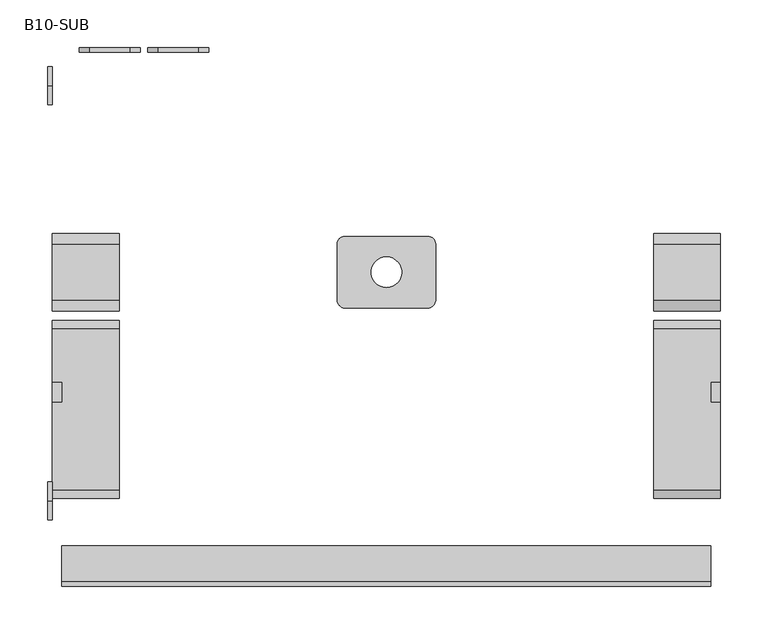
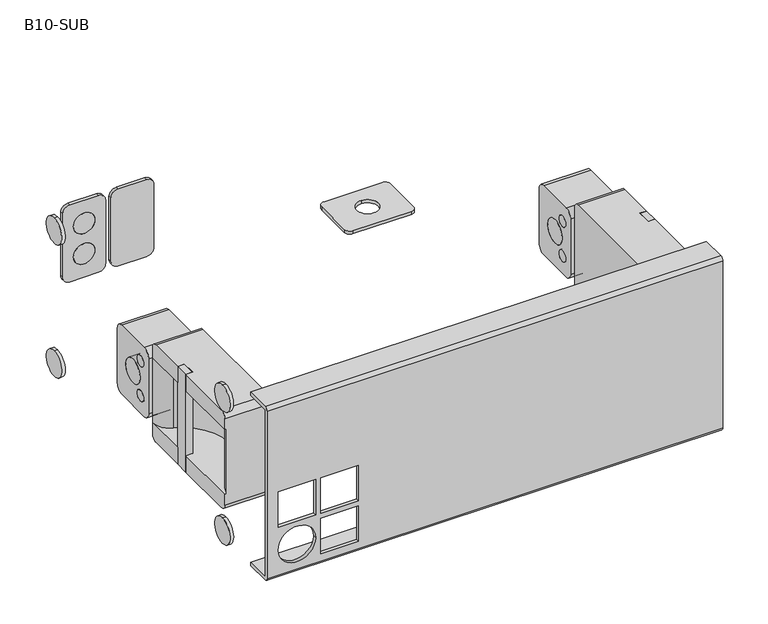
"""IFC4 building model written with IfcOpenShell, lengths in millimetres: proxy geometry, d&b B10-SUB : B10-SUB."""

from ifc_helpers import new_model, si_unit, point, frame, frame_2d, origin, place, context, project, spatial, polyline, circle_curve, trimmed, segment, composite_curve, outline, extrude, source, transform, mapped, element, save
from ifc_brep_helpers import plane_surface, cylinder_surface, revolved_surface, advanced_brep


def b10_sub_546336d0(model_context):
    return source(origin(), model_context, "Body", "SolidModel", [
        advanced_brep(
        [(2782.5, 31.2505973, 73.75), (2782.5, 31.2505973, 210.25), (2782.5, 40.2505973, 219.25), (2782.5, 209.2505973, 219.25), (2782.5, 218.2505973, 210.25), (2782.5, 218.2505973, 73.75), (2782.5, 209.2505973, 64.75), (2782.5, 40.2505973, 64.75), (2852.5, 218.2505973, 90.75), (2852.5, 153.5505973, 90.75), (2852.5, 153.5505973, 64.75), (2852.5, 209.2505973, 64.75), (2852.5, 218.2505973, 73.75), (2852.5, 31.2505973, 73.75), (2852.5, 40.2505973, 64.75), (2852.5, 132.1755973, 64.75), (2852.5, 132.1755973, 90.75), (2852.5, 31.2505973, 90.75), (2852.5, 31.2505973, 210.25), (2852.5, 31.2505973, 193.25), (2852.5, 132.1755973, 193.25), (2852.5, 132.1755973, 219.25), (2852.5, 40.2505973, 219.25), (2852.5, 218.2505973, 193.25), (2852.5, 218.2505973, 210.25), (2852.5, 209.2505973, 219.25), (2852.5, 153.5505973, 219.25), (2852.5, 153.5505973, 193.25), (2842.5, 153.5505973, 64.75), (2842.5, 132.1755973, 64.75), (2850.3277755, 31.2505973, 90.75), (2850.3277755, 31.2505973, 193.25), (2842.5, 132.1755973, 90.75), (2835.5638712, 194.3480463, 90.75), (2821.2971722, 71.2198126, 90.75), (2842.5, 153.5505973, 90.75), (2821.2971722, 71.2198126, 193.25), (2835.5638712, 194.3480463, 193.25), (2842.5, 153.5505973, 193.25), (2842.5, 132.1755973, 193.25), (2842.5, 132.1755973, 219.25), (2842.5, 153.5505973, 219.25)],
        [
            (0, 1),
            (1, 2, circle_curve(frame((2782.5, 40.2505973, 210.25), z_axis=(-1.0, 0.0, 0.0), x_axis=(0.0, 0.0, 1.0)), 9.0)),
            (2, 3),
            (3, 4, circle_curve(frame((2782.5, 209.2505973, 210.25), z_axis=(-1.0, 0.0, 0.0), x_axis=(0.0, 0.0, 1.0)), 9.0)),
            (4, 5),
            (5, 6, circle_curve(frame((2782.5, 209.2505973, 73.75), z_axis=(-1.0, 0.0, 0.0), x_axis=(0.0, 0.0, -1.0)), 9.0)),
            (6, 7),
            (7, 0, circle_curve(frame((2782.5, 40.2505973, 73.75), z_axis=(-1.0, 0.0, 0.0), x_axis=(0.0, 0.0, -1.0)), 9.0)),
            (8, 9),
            (9, 10),
            (10, 11),
            (11, 12, circle_curve(frame((2852.5, 209.2505973, 73.75), z_axis=(1.0, 0.0, 0.0), x_axis=(0.0, 0.0, -1.0)), 9.0)),
            (12, 8),
            (13, 14, circle_curve(frame((2852.5, 40.2505973, 73.75), z_axis=(1.0, 0.0, 0.0), x_axis=(0.0, 0.0, -1.0)), 9.0)),
            (14, 15),
            (15, 16),
            (16, 17),
            (17, 13),
            (18, 19),
            (19, 20),
            (20, 21),
            (21, 22),
            (22, 18, circle_curve(frame((2852.5, 40.2505973, 210.25), z_axis=(1.0, 0.0, 0.0), x_axis=(0.0, 0.0, 1.0)), 9.0)),
            (23, 24),
            (24, 25, circle_curve(frame((2852.5, 209.2505973, 210.25), z_axis=(1.0, 0.0, 0.0), x_axis=(0.0, 0.0, 1.0)), 9.0)),
            (25, 26),
            (26, 27),
            (27, 23),
            (7, 14),
            (13, 0),
            (10, 28),
            (28, 29),
            (29, 15),
            (6, 11),
            (5, 12),
            (4, 24),
            (23, 8),
            (17, 30),
            (30, 31),
            (31, 19),
            (18, 1),
            (29, 32),
            (32, 16),
            (8, 33, circle_curve(frame((2827.1646824, 218.2505973, 90.75), z_axis=(0.0, 0.0, -1.0), x_axis=(-1.0, 0.0, 0.0)), 25.3353176)),
            (33, 34, circle_curve(frame((2858.418024, 129.3093188, 90.75), z_axis=(0.0, 0.0, 1.0), x_axis=(-1.0, 0.0, 0.0)), 68.9372786)),
            (34, 30, circle_curve(frame((2784.8922182, 14.2505973, 90.75), z_axis=(0.0, 0.0, -1.0), x_axis=(-1.0, 0.0, 0.0)), 67.6077818)),
            (32, 35),
            (35, 9),
            (35, 28),
            (31, 36, circle_curve(frame((2784.8922182, 14.2505973, 193.25), z_axis=(0.0, 0.0, 1.0), x_axis=(-1.0, 0.0, 0.0)), 67.6077818)),
            (36, 37, circle_curve(frame((2858.418024, 129.3093188, 193.25), z_axis=(0.0, 0.0, -1.0), x_axis=(-1.0, 0.0, 0.0)), 68.9372786)),
            (37, 23, circle_curve(frame((2827.1646824, 218.2505973, 193.25), z_axis=(0.0, 0.0, 1.0), x_axis=(-1.0, 0.0, 0.0)), 25.3353176)),
            (27, 38),
            (38, 39),
            (39, 20),
            (39, 40),
            (40, 21),
            (40, 41),
            (41, 26),
            (25, 3),
            (2, 22),
            (41, 38),
            (34, 36),
            (37, 33),
        ],
        [
            plane_surface(frame((2782.5, 40.2505973, 64.75), z_axis=(-1.0, 0.0, 0.0), x_axis=(0.0, 1.0, 0.0))),
            plane_surface(frame((2852.5, 40.2505973, 64.75), z_axis=(1.0, 0.0, 0.0), x_axis=(0.0, -1.0, 0.0))),
            cylinder_surface(frame((2852.5, 40.2505973, 73.75), z_axis=(-1.0, 0.0, 0.0), x_axis=(0.0, 0.0, -1.0)), 9.0),
            plane_surface(frame((2782.5, 40.2505973, 64.75), z_axis=(0.0, 0.0, -1.0), x_axis=(1.0, 0.0, 0.0))),
            cylinder_surface(frame((2852.5, 209.2505973, 73.75), z_axis=(-1.0, 0.0, 0.0), x_axis=(0.0, 0.0, -1.0)), 9.0),
            plane_surface(frame((2782.5, 218.2505973, 73.75), z_axis=(0.0, 1.0, 0.0), x_axis=(1.0, 0.0, 0.0))),
            plane_surface(frame((2782.5, 31.2505973, 90.75), z_axis=(0.0, -1.0, 0.0), x_axis=(1.0, 0.0, 0.0))),
            plane_surface(frame((2782.5, 132.1755973, 64.75), z_axis=(0.0, 1.0, 0.0), x_axis=(1.0, 0.0, 0.0))),
            plane_surface(frame((2782.5, 132.1755973, 90.75), z_axis=(0.0, 0.0, 1.0), x_axis=(1.0, 0.0, 0.0))),
            plane_surface(frame((2782.5, 153.5505973, 90.75), z_axis=(0.0, -1.0, 0.0), x_axis=(1.0, 0.0, 0.0))),
            plane_surface(frame((2782.5, 31.2505973, 193.25), z_axis=(0.0, 0.0, -1.0), x_axis=(1.0, 0.0, 0.0))),
            plane_surface(frame((2782.5, 132.1755973, 193.25), z_axis=(0.0, 1.0, 0.0), x_axis=(1.0, 0.0, 0.0))),
            plane_surface(frame((2782.5, 132.1755973, 219.25), z_axis=(0.0, 0.0, 1.0), x_axis=(1.0, 0.0, 0.0))),
            cylinder_surface(frame((2852.5, 40.2505973, 210.25), z_axis=(-1.0, 0.0, 0.0), x_axis=(0.0, 0.0, 1.0)), 9.0),
            cylinder_surface(frame((2852.5, 209.2505973, 210.25), z_axis=(-1.0, 0.0, 0.0), x_axis=(0.0, 0.0, 1.0)), 9.0),
            plane_surface(frame((2782.5, 153.5505973, 219.25), z_axis=(0.0, -1.0, 0.0), x_axis=(1.0, 0.0, 0.0))),
            plane_surface(frame((2842.5, 153.5505973, 81.9999786), z_axis=(1.0, 0.0, 0.0), x_axis=(0.0, 0.0, -1.0))),
            cylinder_surface(frame((2784.8922182, 14.2505973, 90.75), z_axis=(0.0, 0.0, 1.0), x_axis=(-1.0, 0.0, 0.0)), 67.6077818),
            cylinder_surface(frame((2827.1646824, 218.2505973, 90.75), z_axis=(0.0, 0.0, 1.0), x_axis=(-1.0, 0.0, 0.0)), 25.3353176),
            revolved_surface(polyline([(2789.4807454, 129.3093188, 90.75), (2789.4807454, 129.3093188, 193.25)]), (2858.418024, 129.3093188, 90.75), (0.0, 0.0, -1.0)),
        ],
        [
            (0, [[1, 2, 3, 4, 5, 6, 7, 8]]),
            (1, [[9, 10, 11, 12, 13]]),
            (1, [[14, 15, 16, 17, 18]]),
            (1, [[19, 20, 21, 22, 23]]),
            (1, [[24, 25, 26, 27, 28]]),
            (2, [[29, -14, 30, -8]]),
            (3, [[31, 32, 33, -15, -29, -7, 34, -11]]),
            (4, [[35, -12, -34, -6]]),
            (5, [[36, -24, 37, -13, -35, -5]]),
            (6, [[-30, -18, 38, 39, 40, -19, 41, -1]]),
            (7, [[-33, 42, 43, -16]]),
            (8, [[44, 45, 46, -38, -17, -43, 47, 48, -9]]),
            (9, [[-48, 49, -31, -10]]),
            (10, [[-40, 50, 51, 52, -28, 53, 54, 55, -20]]),
            (11, [[-55, 56, 57, -21]]),
            (12, [[-57, 58, 59, -26, 60, -3, 61, -22]]),
            (13, [[-41, -23, -61, -2]]),
            (14, [[-60, -25, -36, -4]]),
            (15, [[-59, 62, -53, -27]]),
            (16, [[-49, -47, -42, -32]]),
            (16, [[-62, -58, -56, -54]]),
            (17, [[-50, -39, -46, 63]]),
            (18, [[-52, 64, -44, -37]]),
            (19, [[-45, -64, -51, -63]]),
        ],
    ),
        extrude(outline(polyline([(2842.5, 153.5505973), (2852.5, 153.5505973), (2852.5, 132.1755973), (2842.5, 132.1755973), (2842.5, 153.5505973)])), frame((0.0, 0.0, 64.75), z_axis=(0.0, 0.0, 1.0), x_axis=(1.0, 0.0, 0.0)), (0.0, 0.0, 1.0), 154.5),
        advanced_brep(
        [(2222.5, 31.2505973, 73.75), (2222.5, 40.2505973, 64.75), (2222.5, 209.2505973, 64.75), (2222.5, 218.2505973, 73.75), (2222.5, 218.2505973, 210.25), (2222.5, 209.2505973, 219.25), (2222.5, 40.2505973, 219.25), (2222.5, 31.2505973, 210.25), (2152.5, 218.2505973, 90.75), (2152.5, 218.2505973, 73.75), (2152.5, 209.2505973, 64.75), (2152.5, 153.5505973, 64.75), (2152.5, 153.5505973, 90.75), (2152.5, 31.2505973, 73.75), (2152.5, 31.2505973, 90.75), (2152.5, 132.1755973, 90.75), (2152.5, 132.1755973, 64.75), (2152.5, 40.2505973, 64.75), (2152.5, 31.2505973, 210.25), (2152.5, 40.2505973, 219.25), (2152.5, 132.1755973, 219.25), (2152.5, 132.1755973, 193.25), (2152.5, 31.2505973, 193.25), (2152.5, 218.2505973, 193.25), (2152.5, 153.5505973, 193.25), (2152.5, 153.5505973, 219.25), (2152.5, 209.2505973, 219.25), (2152.5, 218.2505973, 210.25), (2162.5, 132.1755973, 64.75), (2162.5, 153.5505973, 64.75), (2154.6722245, 31.2505973, 193.25), (2154.6722245, 31.2505973, 90.75), (2162.5, 132.1755973, 90.75), (2162.5, 153.5505973, 90.75), (2183.7028278, 71.2198126, 90.75), (2169.4361288, 194.3480463, 90.75), (2162.5, 132.1755973, 193.25), (2162.5, 153.5505973, 193.25), (2169.4361288, 194.3480463, 193.25), (2183.7028278, 71.2198126, 193.25), (2162.5, 132.1755973, 219.25), (2162.5, 153.5505973, 219.25)],
        [
            (0, 1, circle_curve(frame((2222.5, 40.2505973, 73.75), z_axis=(1.0, 0.0, 0.0), x_axis=(0.0, 0.0, -1.0)), 9.0)),
            (1, 2),
            (2, 3, circle_curve(frame((2222.5, 209.2505973, 73.75), z_axis=(1.0, 0.0, 0.0), x_axis=(0.0, 0.0, -1.0)), 9.0)),
            (3, 4),
            (4, 5, circle_curve(frame((2222.5, 209.2505973, 210.25), z_axis=(1.0, 0.0, 0.0), x_axis=(0.0, 0.0, 1.0)), 9.0)),
            (5, 6),
            (6, 7, circle_curve(frame((2222.5, 40.2505973, 210.25), z_axis=(1.0, 0.0, 0.0), x_axis=(0.0, 0.0, 1.0)), 9.0)),
            (7, 0),
            (8, 9),
            (9, 10, circle_curve(frame((2152.5, 209.2505973, 73.75), z_axis=(-1.0, 0.0, 0.0), x_axis=(0.0, 0.0, -1.0)), 9.0)),
            (10, 11),
            (11, 12),
            (12, 8),
            (13, 14),
            (14, 15),
            (15, 16),
            (16, 17),
            (17, 13, circle_curve(frame((2152.5, 40.2505973, 73.75), z_axis=(-1.0, 0.0, 0.0), x_axis=(0.0, 0.0, -1.0)), 9.0)),
            (18, 19, circle_curve(frame((2152.5, 40.2505973, 210.25), z_axis=(-1.0, 0.0, 0.0), x_axis=(0.0, 0.0, 1.0)), 9.0)),
            (19, 20),
            (20, 21),
            (21, 22),
            (22, 18),
            (23, 24),
            (24, 25),
            (25, 26),
            (26, 27, circle_curve(frame((2152.5, 209.2505973, 210.25), z_axis=(-1.0, 0.0, 0.0), x_axis=(0.0, 0.0, 1.0)), 9.0)),
            (27, 23),
            (0, 13),
            (17, 1),
            (10, 2),
            (16, 28),
            (28, 29),
            (29, 11),
            (9, 3),
            (8, 23),
            (27, 4),
            (7, 18),
            (22, 30),
            (30, 31),
            (31, 14),
            (15, 32),
            (32, 28),
            (12, 33),
            (33, 32),
            (31, 34, circle_curve(frame((2220.1077818, 14.2505973, 90.75), z_axis=(0.0, 0.0, -1.0), x_axis=(1.0, 0.0, 0.0)), 67.6077818)),
            (34, 35, circle_curve(frame((2146.581976, 129.3093188, 90.75), z_axis=(0.0, 0.0, 1.0), x_axis=(1.0, 0.0, 0.0)), 68.9372786)),
            (35, 8, circle_curve(frame((2177.8353176, 218.2505973, 90.75), z_axis=(0.0, 0.0, -1.0), x_axis=(1.0, 0.0, 0.0)), 25.3353176)),
            (29, 33),
            (21, 36),
            (36, 37),
            (37, 24),
            (23, 38, circle_curve(frame((2177.8353176, 218.2505973, 193.25), z_axis=(0.0, 0.0, 1.0), x_axis=(1.0, 0.0, 0.0)), 25.3353176)),
            (38, 39, circle_curve(frame((2146.581976, 129.3093188, 193.25), z_axis=(0.0, 0.0, -1.0), x_axis=(1.0, 0.0, 0.0)), 68.9372786)),
            (39, 30, circle_curve(frame((2220.1077818, 14.2505973, 193.25), z_axis=(0.0, 0.0, 1.0), x_axis=(1.0, 0.0, 0.0)), 67.6077818)),
            (20, 40),
            (40, 36),
            (19, 6),
            (5, 26),
            (25, 41),
            (41, 40),
            (37, 41),
            (39, 34),
            (35, 38),
        ],
        [
            plane_surface(frame((2222.5, 40.2505973, 64.75), z_axis=(1.0, 0.0, 0.0), x_axis=(0.0, 1.0, 0.0))),
            plane_surface(frame((2152.5, 40.2505973, 64.75), z_axis=(-1.0, 0.0, 0.0), x_axis=(0.0, -1.0, 0.0))),
            cylinder_surface(frame((2152.5, 40.2505973, 73.75), z_axis=(1.0, 0.0, 0.0), x_axis=(0.0, 0.0, -1.0)), 9.0),
            plane_surface(frame((2222.5, 40.2505973, 64.75), z_axis=(0.0, 0.0, -1.0), x_axis=(-1.0, 0.0, 0.0))),
            cylinder_surface(frame((2152.5, 209.2505973, 73.75), z_axis=(1.0, 0.0, 0.0), x_axis=(0.0, 0.0, -1.0)), 9.0),
            plane_surface(frame((2222.5, 218.2505973, 73.75), z_axis=(0.0, 1.0, 0.0), x_axis=(-1.0, 0.0, 0.0))),
            plane_surface(frame((2222.5, 31.2505973, 90.75), z_axis=(0.0, -1.0, 0.0), x_axis=(-1.0, 0.0, 0.0))),
            plane_surface(frame((2222.5, 132.1755973, 64.75), z_axis=(0.0, 1.0, 0.0), x_axis=(-1.0, 0.0, 0.0))),
            plane_surface(frame((2222.5, 132.1755973, 90.75), z_axis=(0.0, 0.0, 1.0), x_axis=(-1.0, 0.0, 0.0))),
            plane_surface(frame((2222.5, 153.5505973, 90.75), z_axis=(0.0, -1.0, 0.0), x_axis=(-1.0, 0.0, 0.0))),
            plane_surface(frame((2222.5, 31.2505973, 193.25), z_axis=(0.0, 0.0, -1.0), x_axis=(-1.0, 0.0, 0.0))),
            plane_surface(frame((2222.5, 132.1755973, 193.25), z_axis=(0.0, 1.0, 0.0), x_axis=(-1.0, 0.0, 0.0))),
            plane_surface(frame((2222.5, 132.1755973, 219.25), z_axis=(0.0, 0.0, 1.0), x_axis=(-1.0, 0.0, 0.0))),
            cylinder_surface(frame((2152.5, 40.2505973, 210.25), z_axis=(1.0, 0.0, 0.0), x_axis=(0.0, 0.0, 1.0)), 9.0),
            cylinder_surface(frame((2152.5, 209.2505973, 210.25), z_axis=(1.0, 0.0, 0.0), x_axis=(0.0, 0.0, 1.0)), 9.0),
            plane_surface(frame((2222.5, 153.5505973, 219.25), z_axis=(0.0, -1.0, 0.0), x_axis=(-1.0, 0.0, 0.0))),
            plane_surface(frame((2162.5, 153.5505973, 81.9999786), z_axis=(-1.0, 0.0, 0.0), x_axis=(0.0, 0.0, -1.0))),
            cylinder_surface(frame((2220.1077818, 14.2505973, 90.75), z_axis=(0.0, 0.0, 1.0), x_axis=(1.0, 0.0, 0.0)), 67.6077818),
            cylinder_surface(frame((2177.8353176, 218.2505973, 90.75), z_axis=(0.0, 0.0, 1.0), x_axis=(1.0, 0.0, 0.0)), 25.3353176),
            revolved_surface(polyline([(2215.5192546, 129.3093188, 90.75), (2215.5192546, 129.3093188, 193.25)]), (2146.581976, 129.3093188, 90.75), (0.0, 0.0, -1.0)),
        ],
        [
            (0, [[1, 2, 3, 4, 5, 6, 7, 8]]),
            (1, [[9, 10, 11, 12, 13]]),
            (1, [[14, 15, 16, 17, 18]]),
            (1, [[19, 20, 21, 22, 23]]),
            (1, [[24, 25, 26, 27, 28]]),
            (2, [[-1, 29, -18, 30]]),
            (3, [[-11, 31, -2, -30, -17, 32, 33, 34]]),
            (4, [[-3, -31, -10, 35]]),
            (5, [[-4, -35, -9, 36, -28, 37]]),
            (6, [[-8, 38, -23, 39, 40, 41, -14, -29]]),
            (7, [[-16, 42, 43, -32]]),
            (8, [[-13, 44, 45, -42, -15, -41, 46, 47, 48]]),
            (9, [[-12, -34, 49, -44]]),
            (10, [[-22, 50, 51, 52, -24, 53, 54, 55, -39]]),
            (11, [[-21, 56, 57, -50]]),
            (12, [[-20, 58, -6, 59, -26, 60, 61, -56]]),
            (13, [[-7, -58, -19, -38]]),
            (14, [[-5, -37, -27, -59]]),
            (15, [[-25, -52, 62, -60]]),
            (16, [[-33, -43, -45, -49]]),
            (16, [[-51, -57, -61, -62]]),
            (17, [[63, -46, -40, -55]]),
            (18, [[-36, -48, 64, -53]]),
            (19, [[-63, -54, -64, -47]]),
        ],
    ),
        extrude(outline(polyline([(2162.5, 153.5505973), (2162.5, 132.1755973), (2152.5, 132.1755973), (2152.5, 153.5505973), (2162.5, 153.5505973)])), frame((0.0, 0.0, 64.75), z_axis=(0.0, 0.0, 1.0), x_axis=(1.0, 0.0, 0.0)), (0.0, 0.0, 1.0), 154.5),
        extrude(outline(composite_curve([segment(trimmed(circle_curve(frame_2d((2546.0, 298.2505973)), 8.0), [point((2546.0, 306.2505973))], [point((2554.0, 298.2505973))], False, "CARTESIAN"), True, "CONTINUOUS"), segment(polyline([(2554.0, 298.2505973), (2554.0, 239.2505973)]), True, "CONTINUOUS"), segment(trimmed(circle_curve(frame_2d((2546.0, 239.2505973)), 8.0), [point((2554.0, 239.2505973))], [point((2546.0, 231.2505973))], False, "CARTESIAN"), True, "CONTINUOUS"), segment(polyline([(2546.0, 231.2505973), (2459.0, 231.2505973)]), True, "CONTINUOUS"), segment(trimmed(circle_curve(frame_2d((2459.0, 239.2505973)), 8.0), [point((2459.0, 231.2505973))], [point((2451.0, 239.2505973))], False, "CARTESIAN"), True, "CONTINUOUS"), segment(polyline([(2451.0, 239.2505973), (2451.0, 298.2505973)]), True, "CONTINUOUS"), segment(trimmed(circle_curve(frame_2d((2459.0, 298.2505973)), 8.0), [point((2451.0, 298.2505973))], [point((2459.0, 306.2505973))], False, "CARTESIAN"), True, "CONTINUOUS"), segment(polyline([(2459.0, 306.2505973), (2546.0, 306.2505973)]), True, "CONTINUOUS")], self_intersect=False), holes=[composite_curve([segment(trimmed(circle_curve(frame_2d((2502.5, 268.7505973)), 16.0), [point((2502.5, 252.7505973))], [point((2502.5, 284.7505973))], True, "CARTESIAN"), True, "CONTINUOUS"), segment(trimmed(circle_curve(frame_2d((2502.5, 268.7505973)), 16.0), [point((2502.5, 284.7505973))], [point((2502.5, 252.7505973))], True, "CARTESIAN"), True, "CONTINUOUS")], self_intersect=False)]), frame((0.0, 0.0, 274.0), z_axis=(0.0, 0.0, 1.0), x_axis=(1.0, 0.0, 0.0)), (0.0, 0.0, 1.0), 5.0),
        extrude(outline(composite_curve([segment(trimmed(circle_curve(frame_2d((214.5, 2212.5)), 16.0), [point((214.5, 2228.5))], [point((214.5, 2196.5))], False, "CARTESIAN"), True, "CONTINUOUS"), segment(trimmed(circle_curve(frame_2d((214.5, 2212.5)), 16.0), [point((214.5, 2196.5))], [point((214.5, 2228.5))], False, "CARTESIAN"), True, "CONTINUOUS")], self_intersect=False)), frame((0.0, 499.2505973, 0.0), z_axis=(0.0, 1.0, 0.0), x_axis=(0.0, 0.0, 1.0)), (0.0, 0.0, 1.0), 5.0),
        extrude(outline(composite_curve([segment(trimmed(circle_curve(frame_2d((166.5, 2212.5)), 16.0), [point((166.5, 2228.5))], [point((166.5, 2196.5))], False, "CARTESIAN"), True, "CONTINUOUS"), segment(trimmed(circle_curve(frame_2d((166.5, 2212.5)), 16.0), [point((166.5, 2196.5))], [point((166.5, 2228.5))], False, "CARTESIAN"), True, "CONTINUOUS")], self_intersect=False)), frame((0.0, 499.2505973, 0.0), z_axis=(0.0, 1.0, 0.0), x_axis=(0.0, 0.0, 1.0)), (0.0, 0.0, 1.0), 5.0),
        extrude(outline(composite_curve([segment(polyline([(250.5, 2234.0), (250.5, 2191.0)]), True, "CONTINUOUS"), segment(trimmed(circle_curve(frame_2d((240.0, 2191.0)), 10.5), [point((250.5, 2191.0))], [point((240.0, 2180.5))], False, "CARTESIAN"), True, "CONTINUOUS"), segment(polyline([(240.0, 2180.5), (140.0, 2180.5)]), True, "CONTINUOUS"), segment(trimmed(circle_curve(frame_2d((140.0, 2191.0)), 10.5), [point((140.0, 2180.5))], [point((129.5, 2191.0))], False, "CARTESIAN"), True, "CONTINUOUS"), segment(polyline([(129.5, 2191.0), (129.5, 2234.0)]), True, "CONTINUOUS"), segment(trimmed(circle_curve(frame_2d((140.0, 2234.0)), 10.5), [point((129.5, 2234.0))], [point((140.0, 2244.5))], False, "CARTESIAN"), True, "CONTINUOUS"), segment(polyline([(140.0, 2244.5), (240.0, 2244.5)]), True, "CONTINUOUS"), segment(trimmed(circle_curve(frame_2d((240.0, 2234.0)), 10.5), [point((240.0, 2244.5))], [point((250.5, 2234.0))], False, "CARTESIAN"), True, "CONTINUOUS")], self_intersect=False), holes=[composite_curve([segment(trimmed(circle_curve(frame_2d((214.5, 2212.5)), 16.0), [point((214.5, 2228.5))], [point((214.5, 2196.5))], True, "CARTESIAN"), True, "CONTINUOUS"), segment(trimmed(circle_curve(frame_2d((214.5, 2212.5)), 16.0), [point((214.5, 2196.5))], [point((214.5, 2228.5))], True, "CARTESIAN"), True, "CONTINUOUS")], self_intersect=False), composite_curve([segment(trimmed(circle_curve(frame_2d((166.5, 2212.5)), 16.0), [point((166.5, 2228.5))], [point((166.5, 2196.5))], True, "CARTESIAN"), True, "CONTINUOUS"), segment(trimmed(circle_curve(frame_2d((166.5, 2212.5)), 16.0), [point((166.5, 2196.5))], [point((166.5, 2228.5))], True, "CARTESIAN"), True, "CONTINUOUS")], self_intersect=False)]), frame((0.0, 499.2505973, 0.0), z_axis=(0.0, 1.0, 0.0), x_axis=(0.0, 0.0, 1.0)), (0.0, 0.0, 1.0), 5.0),
        extrude(outline(composite_curve([segment(trimmed(circle_curve(frame_2d((249.7505973, 169.5)), 8.5), [point((249.7505973, 161.0))], [point((249.7505973, 178.0))], False, "CARTESIAN"), True, "CONTINUOUS"), segment(trimmed(circle_curve(frame_2d((249.7505973, 169.5)), 8.5), [point((249.7505973, 178.0))], [point((249.7505973, 161.0))], False, "CARTESIAN"), True, "CONTINUOUS")], self_intersect=False)), frame((2782.5, 0.0, 0.0), z_axis=(1.0, 0.0, 0.0), x_axis=(0.0, 1.0, 0.0)), (0.0, 0.0, 1.0), 70.0),
        extrude(outline(composite_curve([segment(trimmed(circle_curve(frame_2d((268.7505973, 142.0)), 18.5), [point((268.7505973, 123.5))], [point((268.7505973, 160.5))], False, "CARTESIAN"), True, "CONTINUOUS"), segment(trimmed(circle_curve(frame_2d((268.7505973, 142.0)), 18.5), [point((268.7505973, 160.5))], [point((268.7505973, 123.5))], False, "CARTESIAN"), True, "CONTINUOUS")], self_intersect=False)), frame((2782.5, 0.0, 0.0), z_axis=(1.0, 0.0, 0.0), x_axis=(0.0, 1.0, 0.0)), (0.0, 0.0, 1.0), 70.0),
        extrude(outline(composite_curve([segment(trimmed(circle_curve(frame_2d((249.7505973, 114.5)), 8.5), [point((249.7505973, 106.0))], [point((249.7505973, 123.0))], False, "CARTESIAN"), True, "CONTINUOUS"), segment(trimmed(circle_curve(frame_2d((249.7505973, 114.5)), 8.5), [point((249.7505973, 123.0))], [point((249.7505973, 106.0))], False, "CARTESIAN"), True, "CONTINUOUS")], self_intersect=False)), frame((2782.5, 0.0, 0.0), z_axis=(1.0, 0.0, 0.0), x_axis=(0.0, 1.0, 0.0)), (0.0, 0.0, 1.0), 70.0),
        extrude(outline(composite_curve([segment(trimmed(circle_curve(frame_2d((298.2505973, 185.5)), 11.0), [point((298.2505973, 196.5))], [point((309.2505973, 185.5))], False, "CARTESIAN"), True, "CONTINUOUS"), segment(polyline([(309.2505973, 185.5), (309.2505973, 98.5)]), True, "CONTINUOUS"), segment(trimmed(circle_curve(frame_2d((298.2505973, 98.5)), 11.0), [point((309.2505973, 98.5))], [point((298.2505973, 87.5))], False, "CARTESIAN"), True, "CONTINUOUS"), segment(polyline([(298.2505973, 87.5), (239.2505973, 87.5)]), True, "CONTINUOUS"), segment(trimmed(circle_curve(frame_2d((239.2505973, 98.5)), 11.0), [point((239.2505973, 87.5))], [point((228.2505973, 98.5))], False, "CARTESIAN"), True, "CONTINUOUS"), segment(polyline([(228.2505973, 98.5), (228.2505973, 185.5)]), True, "CONTINUOUS"), segment(trimmed(circle_curve(frame_2d((239.2505973, 185.5)), 11.0), [point((228.2505973, 185.5))], [point((239.2505973, 196.5))], False, "CARTESIAN"), True, "CONTINUOUS"), segment(polyline([(239.2505973, 196.5), (298.2505973, 196.5)]), True, "CONTINUOUS")], self_intersect=False), holes=[composite_curve([segment(trimmed(circle_curve(frame_2d((249.7505973, 169.5)), 8.5), [point((249.7505973, 161.0))], [point((249.7505973, 178.0))], True, "CARTESIAN"), True, "CONTINUOUS"), segment(trimmed(circle_curve(frame_2d((249.7505973, 169.5)), 8.5), [point((249.7505973, 178.0))], [point((249.7505973, 161.0))], True, "CARTESIAN"), True, "CONTINUOUS")], self_intersect=False), composite_curve([segment(trimmed(circle_curve(frame_2d((268.7505973, 142.0)), 18.5), [point((268.7505973, 123.5))], [point((268.7505973, 160.5))], True, "CARTESIAN"), True, "CONTINUOUS"), segment(trimmed(circle_curve(frame_2d((268.7505973, 142.0)), 18.5), [point((268.7505973, 160.5))], [point((268.7505973, 123.5))], True, "CARTESIAN"), True, "CONTINUOUS")], self_intersect=False), composite_curve([segment(trimmed(circle_curve(frame_2d((249.7505973, 114.5)), 8.5), [point((249.7505973, 106.0))], [point((249.7505973, 123.0))], True, "CARTESIAN"), True, "CONTINUOUS"), segment(trimmed(circle_curve(frame_2d((249.7505973, 114.5)), 8.5), [point((249.7505973, 123.0))], [point((249.7505973, 106.0))], True, "CARTESIAN"), True, "CONTINUOUS")], self_intersect=False)]), frame((2782.5, 0.0, 0.0), z_axis=(1.0, 0.0, 0.0), x_axis=(0.0, 1.0, 0.0)), (0.0, 0.0, 1.0), 70.0),
        extrude(outline(composite_curve([segment(trimmed(circle_curve(frame_2d((249.7505973, 169.5)), 8.5), [point((249.7505973, 161.0))], [point((249.7505973, 178.0))], False, "CARTESIAN"), True, "CONTINUOUS"), segment(trimmed(circle_curve(frame_2d((249.7505973, 169.5)), 8.5), [point((249.7505973, 178.0))], [point((249.7505973, 161.0))], False, "CARTESIAN"), True, "CONTINUOUS")], self_intersect=False)), frame((2152.5, 0.0, 0.0), z_axis=(1.0, 0.0, 0.0), x_axis=(0.0, 1.0, 0.0)), (0.0, 0.0, 1.0), 70.0),
        extrude(outline(composite_curve([segment(trimmed(circle_curve(frame_2d((268.7505973, 142.0)), 18.5), [point((268.7505973, 123.5))], [point((268.7505973, 160.5))], False, "CARTESIAN"), True, "CONTINUOUS"), segment(trimmed(circle_curve(frame_2d((268.7505973, 142.0)), 18.5), [point((268.7505973, 160.5))], [point((268.7505973, 123.5))], False, "CARTESIAN"), True, "CONTINUOUS")], self_intersect=False)), frame((2152.5, 0.0, 0.0), z_axis=(1.0, 0.0, 0.0), x_axis=(0.0, 1.0, 0.0)), (0.0, 0.0, 1.0), 70.0),
        extrude(outline(composite_curve([segment(trimmed(circle_curve(frame_2d((249.7505973, 114.5)), 8.5), [point((249.7505973, 106.0))], [point((249.7505973, 123.0))], False, "CARTESIAN"), True, "CONTINUOUS"), segment(trimmed(circle_curve(frame_2d((249.7505973, 114.5)), 8.5), [point((249.7505973, 123.0))], [point((249.7505973, 106.0))], False, "CARTESIAN"), True, "CONTINUOUS")], self_intersect=False)), frame((2152.5, 0.0, 0.0), z_axis=(1.0, 0.0, 0.0), x_axis=(0.0, 1.0, 0.0)), (0.0, 0.0, 1.0), 70.0),
        extrude(outline(composite_curve([segment(trimmed(circle_curve(frame_2d((298.2505973, 185.5)), 11.0), [point((298.2505973, 196.5))], [point((309.2505973, 185.5))], False, "CARTESIAN"), True, "CONTINUOUS"), segment(polyline([(309.2505973, 185.5), (309.2505973, 98.5)]), True, "CONTINUOUS"), segment(trimmed(circle_curve(frame_2d((298.2505973, 98.5)), 11.0), [point((309.2505973, 98.5))], [point((298.2505973, 87.5))], False, "CARTESIAN"), True, "CONTINUOUS"), segment(polyline([(298.2505973, 87.5), (239.2505973, 87.5)]), True, "CONTINUOUS"), segment(trimmed(circle_curve(frame_2d((239.2505973, 98.5)), 11.0), [point((239.2505973, 87.5))], [point((228.2505973, 98.5))], False, "CARTESIAN"), True, "CONTINUOUS"), segment(polyline([(228.2505973, 98.5), (228.2505973, 185.5)]), True, "CONTINUOUS"), segment(trimmed(circle_curve(frame_2d((239.2505973, 185.5)), 11.0), [point((228.2505973, 185.5))], [point((239.2505973, 196.5))], False, "CARTESIAN"), True, "CONTINUOUS"), segment(polyline([(239.2505973, 196.5), (298.2505973, 196.5)]), True, "CONTINUOUS")], self_intersect=False), holes=[composite_curve([segment(trimmed(circle_curve(frame_2d((249.7505973, 169.5)), 8.5), [point((249.7505973, 161.0))], [point((249.7505973, 178.0))], True, "CARTESIAN"), True, "CONTINUOUS"), segment(trimmed(circle_curve(frame_2d((249.7505973, 169.5)), 8.5), [point((249.7505973, 178.0))], [point((249.7505973, 161.0))], True, "CARTESIAN"), True, "CONTINUOUS")], self_intersect=False), composite_curve([segment(trimmed(circle_curve(frame_2d((268.7505973, 142.0)), 18.5), [point((268.7505973, 123.5))], [point((268.7505973, 160.5))], True, "CARTESIAN"), True, "CONTINUOUS"), segment(trimmed(circle_curve(frame_2d((268.7505973, 142.0)), 18.5), [point((268.7505973, 160.5))], [point((268.7505973, 123.5))], True, "CARTESIAN"), True, "CONTINUOUS")], self_intersect=False), composite_curve([segment(trimmed(circle_curve(frame_2d((249.7505973, 114.5)), 8.5), [point((249.7505973, 106.0))], [point((249.7505973, 123.0))], True, "CARTESIAN"), True, "CONTINUOUS"), segment(trimmed(circle_curve(frame_2d((249.7505973, 114.5)), 8.5), [point((249.7505973, 123.0))], [point((249.7505973, 106.0))], True, "CARTESIAN"), True, "CONTINUOUS")], self_intersect=False)]), frame((2152.5, 0.0, 0.0), z_axis=(1.0, 0.0, 0.0), x_axis=(0.0, 1.0, 0.0)), (0.0, 0.0, 1.0), 70.0),
        advanced_brep(
        [(2842.7, -60.7494027, 10.0), (2842.7, -55.7494027, 5.0), (2842.7, -18.2494027, 5.0), (2842.7, -18.2494027, 10.0), (2842.7, -55.7494027, 10.0), (2842.7, -55.7494027, 274.0), (2842.7, -18.2494027, 274.0), (2842.7, -18.2494027, 279.0), (2842.7, -55.7494027, 279.0), (2842.7, -60.7494027, 274.0), (2162.3, -60.7494027, 10.0), (2162.3, -60.7494027, 274.0), (2162.3, -55.7494027, 279.0), (2162.3, -18.2494027, 279.0), (2162.3, -18.2494027, 274.0), (2162.3, -55.7494027, 274.0), (2162.3, -55.7494027, 10.0), (2162.3, -18.2494027, 10.0), (2162.3, -18.2494027, 5.0), (2162.3, -55.7494027, 5.0), (2234.8, -55.7494027, 85.5), (2234.8, -55.7494027, 141.5), (2178.8, -55.7494027, 141.5), (2178.8, -55.7494027, 85.5), (2298.8, -55.7494027, 85.5), (2298.8, -55.7494027, 141.5), (2242.8, -55.7494027, 141.5), (2242.8, -55.7494027, 85.5), (2298.8, -55.7494027, 21.5), (2298.8, -55.7494027, 77.5), (2242.8, -55.7494027, 77.5), (2242.8, -55.7494027, 21.5), (2178.8, -55.7494027, 49.5), (2234.8, -55.7494027, 49.5), (2234.8, -60.7494027, 141.5), (2234.8, -60.7494027, 85.5), (2178.8, -60.7494027, 85.5), (2178.8, -60.7494027, 141.5), (2298.8, -60.7494027, 141.5), (2298.8, -60.7494027, 85.5), (2242.8, -60.7494027, 85.5), (2242.8, -60.7494027, 141.5), (2298.8, -60.7494027, 77.5), (2298.8, -60.7494027, 21.5), (2242.8, -60.7494027, 21.5), (2242.8, -60.7494027, 77.5), (2234.8, -60.7494027, 49.5), (2178.8, -60.7494027, 49.5)],
        [
            (0, 1, circle_curve(frame((2842.7, -55.7494027, 10.0), z_axis=(1.0, 0.0, 0.0), x_axis=(0.0, 1.0, 0.0)), 5.0)),
            (1, 2),
            (2, 3),
            (3, 4),
            (4, 5),
            (5, 6),
            (6, 7),
            (7, 8),
            (8, 9, circle_curve(frame((2842.7, -55.7494027, 274.0), z_axis=(1.0, 0.0, 0.0), x_axis=(0.0, 1.0, 0.0)), 5.0)),
            (9, 0),
            (10, 11),
            (11, 12, circle_curve(frame((2162.3, -55.7494027, 274.0), z_axis=(-1.0, 0.0, 0.0), x_axis=(0.0, 1.0, 0.0)), 5.0)),
            (12, 13),
            (13, 14),
            (14, 15),
            (15, 16),
            (16, 17),
            (17, 18),
            (18, 19),
            (19, 10, circle_curve(frame((2162.3, -55.7494027, 10.0), z_axis=(-1.0, 0.0, 0.0), x_axis=(0.0, 1.0, 0.0)), 5.0)),
            (4, 16),
            (15, 5),
            (20, 21),
            (21, 22),
            (22, 23),
            (23, 20),
            (24, 25),
            (25, 26),
            (26, 27),
            (27, 24),
            (28, 29),
            (29, 30),
            (30, 31),
            (31, 28),
            (32, 33, circle_curve(frame((2206.8, -55.7494027, 49.5), z_axis=(0.0, -1.0, 0.0), x_axis=(-1.0, 0.0, 0.0)), 28.0)),
            (33, 32, circle_curve(frame((2206.8, -55.7494027, 49.5), z_axis=(0.0, -1.0, 0.0), x_axis=(-1.0, 0.0, 0.0)), 28.0)),
            (14, 6),
            (9, 11),
            (10, 0),
            (34, 35),
            (35, 36),
            (36, 37),
            (37, 34),
            (38, 39),
            (39, 40),
            (40, 41),
            (41, 38),
            (42, 43),
            (43, 44),
            (44, 45),
            (45, 42),
            (46, 47, circle_curve(frame((2206.8, -60.7494027, 49.5), z_axis=(0.0, 1.0, 0.0), x_axis=(-1.0, 0.0, 0.0)), 28.0)),
            (47, 46, circle_curve(frame((2206.8, -60.7494027, 49.5), z_axis=(0.0, 1.0, 0.0), x_axis=(-1.0, 0.0, 0.0)), 28.0)),
            (34, 21),
            (20, 35),
            (23, 36),
            (37, 22),
            (38, 25),
            (24, 39),
            (27, 40),
            (26, 41),
            (42, 29),
            (28, 43),
            (31, 44),
            (30, 45),
            (46, 33),
            (32, 47),
            (3, 17),
            (13, 7),
            (12, 8),
            (19, 1),
            (18, 2),
        ],
        [
            plane_surface(frame((2842.7, -50.7494027, 10.0), z_axis=(1.0, 0.0, 0.0), x_axis=(0.0, 0.0, 1.0))),
            plane_surface(frame((2162.3, -50.7494027, 10.0), z_axis=(-1.0, 0.0, 0.0), x_axis=(0.0, 0.0, -1.0))),
            plane_surface(frame((2842.7, -55.7494027, 10.0), z_axis=(0.0, 1.0, 0.0), x_axis=(-1.0, 0.0, 0.0))),
            plane_surface(frame((2842.7, -55.7494027, 274.0), z_axis=(0.0, 0.0, -1.0), x_axis=(-1.0, 0.0, 0.0))),
            plane_surface(frame((2842.7, -60.7494027, 274.0), z_axis=(0.0, -1.0, 0.0), x_axis=(-1.0, 0.0, 0.0))),
            plane_surface(frame((2234.8, -50.7494027, 141.5), z_axis=(-1.0, 0.0, 0.0), x_axis=(0.0, -1.0, 0.0))),
            plane_surface(frame((2234.8, -50.7494027, 85.5), z_axis=(0.0, 0.0, 1.0), x_axis=(0.0, -1.0, 0.0))),
            plane_surface(frame((2178.8, -50.7494027, 141.5), z_axis=(0.0, 0.0, -1.0), x_axis=(0.0, -1.0, 0.0))),
            plane_surface(frame((2298.8, -50.7494027, 141.5), z_axis=(-1.0, 0.0, 0.0), x_axis=(0.0, -1.0, 0.0))),
            plane_surface(frame((2298.8, -50.7494027, 85.5), z_axis=(0.0, 0.0, 1.0), x_axis=(0.0, -1.0, 0.0))),
            plane_surface(frame((2242.8, -50.7494027, 85.5), z_axis=(1.0, 0.0, 0.0), x_axis=(0.0, -1.0, 0.0))),
            plane_surface(frame((2242.8, -50.7494027, 141.5), z_axis=(0.0, 0.0, -1.0), x_axis=(0.0, -1.0, 0.0))),
            plane_surface(frame((2298.8, -50.7494027, 77.5), z_axis=(-1.0, 0.0, 0.0), x_axis=(0.0, -1.0, 0.0))),
            plane_surface(frame((2298.8, -50.7494027, 21.5), z_axis=(0.0, 0.0, 1.0), x_axis=(0.0, -1.0, 0.0))),
            plane_surface(frame((2242.8, -50.7494027, 21.5), z_axis=(1.0, 0.0, 0.0), x_axis=(0.0, -1.0, 0.0))),
            plane_surface(frame((2242.8, -50.7494027, 77.5), z_axis=(0.0, 0.0, -1.0), x_axis=(0.0, -1.0, 0.0))),
            revolved_surface(polyline([(2178.8, -55.7494027, 49.5), (2178.8, -60.7494027, 49.5)]), (2206.8, -60.7494027, 49.5), (0.0, 1.0, 0.0)),
            plane_surface(frame((2842.7, -18.2494027, 10.0), z_axis=(0.0, 0.0, 1.0), x_axis=(-1.0, 0.0, 0.0))),
            plane_surface(frame((2842.7, -18.2494027, 274.0), z_axis=(0.0, 1.0, 0.0), x_axis=(-1.0, 0.0, 0.0))),
            plane_surface(frame((2842.7, -18.2494027, 279.0), z_axis=(0.0, 0.0, 1.0), x_axis=(-1.0, 0.0, 0.0))),
            cylinder_surface(frame((2162.3, -55.7494027, 10.0), z_axis=(1.0, 0.0, 0.0), x_axis=(0.0, 1.0, 0.0)), 5.0),
            plane_surface(frame((2842.7, -55.7494027, 5.0), z_axis=(0.0, 0.0, -1.0), x_axis=(-1.0, 0.0, 0.0))),
            plane_surface(frame((2842.7, -18.2494027, 5.0), z_axis=(0.0, 1.0, 0.0), x_axis=(-1.0, 0.0, 0.0))),
            cylinder_surface(frame((2162.3, -55.7494027, 274.0), z_axis=(1.0, 0.0, 0.0), x_axis=(0.0, 1.0, 0.0)), 5.0),
            plane_surface(frame((2178.8, -50.7494027, 85.5), z_axis=(1.0, 0.0, 0.0), x_axis=(0.0, -1.0, 0.0))),
        ],
        [
            (0, [[1, 2, 3, 4, 5, 6, 7, 8, 9, 10]]),
            (1, [[11, 12, 13, 14, 15, 16, 17, 18, 19, 20]]),
            (2, [[-5, 21, -16, 22], [23, 24, 25, 26], [27, 28, 29, 30], [31, 32, 33, 34], [35, 36]]),
            (3, [[-6, -22, -15, 37]]),
            (4, [[-10, 38, -11, 39], [40, 41, 42, 43], [44, 45, 46, 47], [48, 49, 50, 51], [52, 53]]),
            (5, [[54, -23, 55, -40]]),
            (6, [[-55, -26, 56, -41]]),
            (7, [[-54, -43, 57, -24]]),
            (8, [[58, -27, 59, -44]]),
            (9, [[-59, -30, 60, -45]]),
            (10, [[-60, -29, 61, -46]]),
            (11, [[-58, -47, -61, -28]]),
            (12, [[62, -31, 63, -48]]),
            (13, [[-63, -34, 64, -49]]),
            (14, [[-64, -33, 65, -50]]),
            (15, [[-62, -51, -65, -32]]),
            (16, [[66, -35, 67, -52]]),
            (16, [[-66, -53, -67, -36]]),
            (17, [[-4, 68, -17, -21]]),
            (18, [[-7, -37, -14, 69]]),
            (19, [[-8, -69, -13, 70]]),
            (20, [[-1, -39, -20, 71]]),
            (21, [[-2, -71, -19, 72]]),
            (22, [[-3, -72, -18, -68]]),
            (23, [[-9, -70, -12, -38]]),
            (24, [[-57, -42, -56, -25]]),
        ],
    ),
        extrude(outline(composite_curve([segment(polyline([(250.5, 2306.0), (250.5, 2263.0)]), True, "CONTINUOUS"), segment(trimmed(circle_curve(frame_2d((240.0, 2263.0)), 10.5), [point((250.5, 2263.0))], [point((240.0, 2252.5))], False, "CARTESIAN"), True, "CONTINUOUS"), segment(polyline([(240.0, 2252.5), (140.0, 2252.5)]), True, "CONTINUOUS"), segment(trimmed(circle_curve(frame_2d((140.0, 2263.0)), 10.5), [point((140.0, 2252.5))], [point((129.5, 2263.0))], False, "CARTESIAN"), True, "CONTINUOUS"), segment(polyline([(129.5, 2263.0), (129.5, 2306.0)]), True, "CONTINUOUS"), segment(trimmed(circle_curve(frame_2d((140.0, 2306.0)), 10.5), [point((129.5, 2306.0))], [point((140.0, 2316.5))], False, "CARTESIAN"), True, "CONTINUOUS"), segment(polyline([(140.0, 2316.5), (240.0, 2316.5)]), True, "CONTINUOUS"), segment(trimmed(circle_curve(frame_2d((240.0, 2306.0)), 10.5), [point((240.0, 2316.5))], [point((250.5, 2306.0))], False, "CARTESIAN"), True, "CONTINUOUS")], self_intersect=False)), frame((0.0, 499.2505973, 0.0), z_axis=(0.0, 1.0, 0.0), x_axis=(0.0, 0.0, 1.0)), (0.0, 0.0, 1.0), 5.0),
        extrude(outline(composite_curve([segment(trimmed(circle_curve(frame_2d((464.2505973, 247.0)), 20.0), [point((464.2505973, 227.0))], [point((464.2505973, 267.0))], False, "CARTESIAN"), True, "CONTINUOUS"), segment(trimmed(circle_curve(frame_2d((464.2505973, 247.0)), 20.0), [point((464.2505973, 267.0))], [point((464.2505973, 227.0))], False, "CARTESIAN"), True, "CONTINUOUS")], self_intersect=False)), frame((2147.5, 0.0, 0.0), z_axis=(1.0, 0.0, 0.0), x_axis=(0.0, 1.0, 0.0)), (0.0, 0.0, 1.0), 5.0),
        extrude(outline(composite_curve([segment(trimmed(circle_curve(frame_2d((464.2505973, 37.0)), 20.0), [point((464.2505973, 17.0))], [point((464.2505973, 57.0))], False, "CARTESIAN"), True, "CONTINUOUS"), segment(trimmed(circle_curve(frame_2d((464.2505973, 37.0)), 20.0), [point((464.2505973, 57.0))], [point((464.2505973, 17.0))], False, "CARTESIAN"), True, "CONTINUOUS")], self_intersect=False)), frame((2147.5, 0.0, 0.0), z_axis=(1.0, 0.0, 0.0), x_axis=(0.0, 1.0, 0.0)), (0.0, 0.0, 1.0), 5.0),
        extrude(outline(composite_curve([segment(trimmed(circle_curve(frame_2d((29.0257497, 37.0)), 20.0), [point((29.0257497, 17.0))], [point((29.0257497, 57.0))], False, "CARTESIAN"), True, "CONTINUOUS"), segment(trimmed(circle_curve(frame_2d((29.0257497, 37.0)), 20.0), [point((29.0257497, 57.0))], [point((29.0257497, 17.0))], False, "CARTESIAN"), True, "CONTINUOUS")], self_intersect=False)), frame((2147.5, 0.0, 0.0), z_axis=(1.0, 0.0, 0.0), x_axis=(0.0, 1.0, 0.0)), (0.0, 0.0, 1.0), 5.0),
        extrude(outline(composite_curve([segment(trimmed(circle_curve(frame_2d((29.0257497, 247.0)), 20.0), [point((29.0257497, 227.0))], [point((29.0257497, 267.0))], False, "CARTESIAN"), True, "CONTINUOUS"), segment(trimmed(circle_curve(frame_2d((29.0257497, 247.0)), 20.0), [point((29.0257497, 267.0))], [point((29.0257497, 227.0))], False, "CARTESIAN"), True, "CONTINUOUS")], self_intersect=False)), frame((2147.5, 0.0, 0.0), z_axis=(1.0, 0.0, 0.0), x_axis=(0.0, 1.0, 0.0)), (0.0, 0.0, 1.0), 5.0),
    ])


if __name__ == "__main__":
    model = new_model("IFC4")
    model_context = context("Model", 3, world=origin())
    ifc_project = project(units=[si_unit("LENGTHUNIT", "METRE", prefix="MILLI")], contexts=[model_context])
    site = spatial("IfcSite", under=ifc_project)
    building = spatial("IfcBuilding", under=site)
    placement = place(None, origin())
    b10_sub_shape = b10_sub_546336d0(model_context)
    element("IfcBuildingElementProxy", 1, Name="d&b B10-SUB : B10-SUB", ObjectType="d&b B10-SUB : B10-SUB", at=placement, inside=building, context=model_context, shape_type="MappedRepresentation", body=[
        mapped(b10_sub_shape, transform((0.0, 0.0, 0.0), x_axis=(1.0, 0.0, 0.0), y_axis=(0.0, 1.0, 0.0), z_axis=(0.0, 0.0, 1.0))),
    ])
    save(model, "model.ifc")
